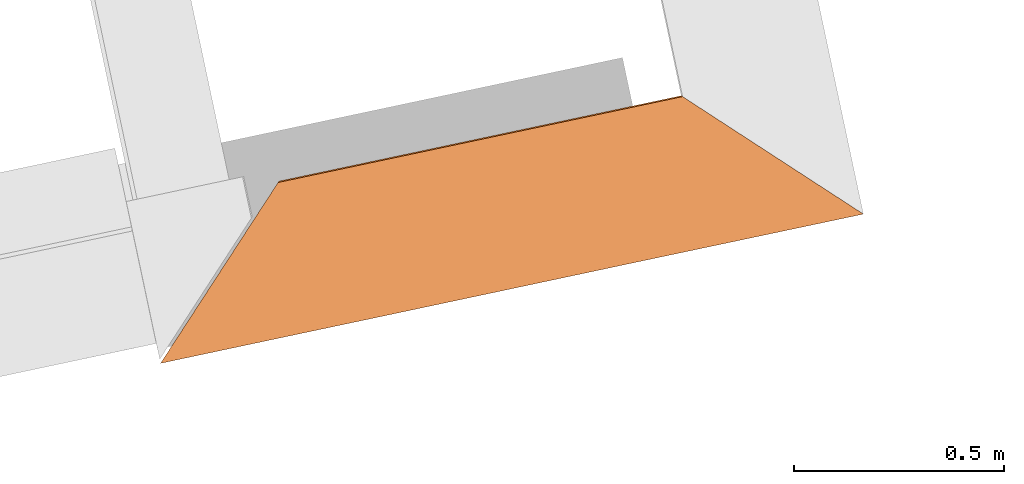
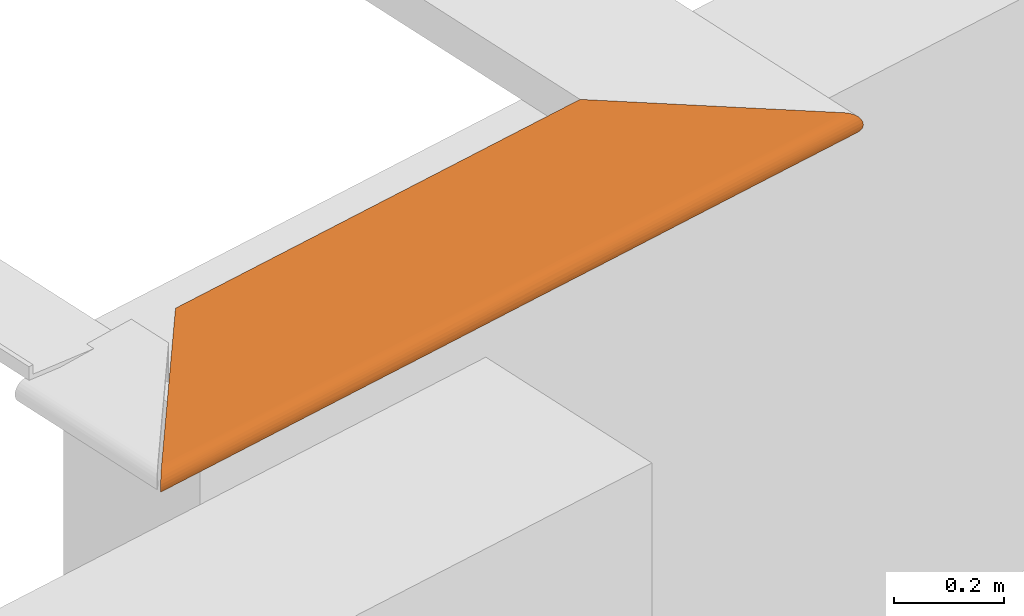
# One storey, part 18 of 22: 1 proxy.
"""IFC2X3 building model written with IfcOpenShell, lengths in centimetres."""

from ifc_helpers import new_model, entity, si_unit, converted_unit, derived_unit, direction, frame, origin, place, context, subcontext, project, spatial, faceted_brep, type_object, element, save


model = new_model("IFC2X3")

# Units and contexts
model_context = context("Model", 3, precision=0.001, world=origin(), true_north=direction((6.12303176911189e-17, 1.0)))
body_context = subcontext(model_context, "Body", "Model", "MODEL_VIEW")
ifc_project = project(units=[si_unit("LENGTHUNIT", "METRE", prefix="CENTI"), si_unit("AREAUNIT", "SQUARE_METRE"), si_unit("VOLUMEUNIT", "CUBIC_METRE"), converted_unit("PLANEANGLEUNIT", "DEGREE", entity("IfcRatioMeasure", 0.0174532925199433), si_unit("PLANEANGLEUNIT", "RADIAN"), dimensions=[0, 0, 0, 0, 0, 0, 0]), si_unit("MASSUNIT", "GRAM", prefix="KILO"), derived_unit("MASSDENSITYUNIT", [(si_unit("MASSUNIT", "GRAM", prefix="KILO"), 1), (si_unit("LENGTHUNIT", "METRE"), -3)]), derived_unit("IONCONCENTRATIONUNIT", [(si_unit("MASSUNIT", "GRAM", prefix="KILO"), 1), (si_unit("LENGTHUNIT", "METRE"), -3)]), derived_unit("MOMENTOFINERTIAUNIT", [(si_unit("LENGTHUNIT", "METRE"), 4)]), si_unit("TIMEUNIT", "SECOND"), si_unit("FREQUENCYUNIT", "HERTZ"), si_unit("THERMODYNAMICTEMPERATUREUNIT", "DEGREE_CELSIUS"), derived_unit("THERMALTRANSMITTANCEUNIT", [(si_unit("MASSUNIT", "GRAM", prefix="KILO"), 1), (si_unit("THERMODYNAMICTEMPERATUREUNIT", "KELVIN"), -1), (si_unit("TIMEUNIT", "SECOND"), -3)]), derived_unit("THERMALCONDUCTANCEUNIT", [(si_unit("MASSUNIT", "GRAM", prefix="KILO"), 1), (si_unit("THERMODYNAMICTEMPERATUREUNIT", "KELVIN"), -1), (si_unit("TIMEUNIT", "SECOND"), -3), (si_unit("LENGTHUNIT", "METRE"), 1)]), derived_unit("VOLUMETRICFLOWRATEUNIT", [(si_unit("LENGTHUNIT", "METRE"), 3), (si_unit("TIMEUNIT", "SECOND"), -1)]), derived_unit("MASSFLOWRATEUNIT", [(si_unit("MASSUNIT", "GRAM", prefix="KILO"), 1), (si_unit("TIMEUNIT", "SECOND"), -1)]), derived_unit("ROTATIONALFREQUENCYUNIT", [(si_unit("TIMEUNIT", "SECOND"), -1)]), si_unit("ELECTRICCURRENTUNIT", "AMPERE"), si_unit("ELECTRICVOLTAGEUNIT", "VOLT"), si_unit("POWERUNIT", "WATT"), si_unit("FORCEUNIT", "NEWTON", prefix="KILO"), si_unit("ILLUMINANCEUNIT", "LUX"), si_unit("LUMINOUSFLUXUNIT", "LUMEN"), si_unit("LUMINOUSINTENSITYUNIT", "CANDELA"), derived_unit("USERDEFINED", [(si_unit("MASSUNIT", "GRAM", prefix="KILO"), -1), (si_unit("LENGTHUNIT", "METRE"), -2), (si_unit("TIMEUNIT", "SECOND"), 3), (si_unit("LUMINOUSFLUXUNIT", "LUMEN"), 1)]), derived_unit("USERDEFINED", [(si_unit("MASSUNIT", "GRAM", prefix="KILO"), 1), (si_unit("TIMEUNIT", "SECOND"), -3), (si_unit("LENGTHUNIT", "METRE"), 3), (si_unit("ELECTRICCURRENTUNIT", "AMPERE"), -2)]), derived_unit("SOUNDPOWERUNIT", [(si_unit("MASSUNIT", "GRAM", prefix="KILO"), 1), (si_unit("TIMEUNIT", "SECOND"), -3), (si_unit("LENGTHUNIT", "METRE"), 2)]), derived_unit("SOUNDPRESSUREUNIT", [(si_unit("MASSUNIT", "GRAM", prefix="KILO"), 1), (si_unit("LENGTHUNIT", "METRE"), -1), (si_unit("TIMEUNIT", "SECOND"), -2)]), derived_unit("LINEARVELOCITYUNIT", [(si_unit("LENGTHUNIT", "METRE"), 1), (si_unit("TIMEUNIT", "SECOND"), -1)]), si_unit("PRESSUREUNIT", "PASCAL"), derived_unit("USERDEFINED", [(si_unit("MASSUNIT", "GRAM", prefix="KILO"), 1), (si_unit("LENGTHUNIT", "METRE"), -2), (si_unit("TIMEUNIT", "SECOND"), -2)]), derived_unit("LINEARFORCEUNIT", [(si_unit("MASSUNIT", "GRAM", prefix="KILO"), 1), (si_unit("TIMEUNIT", "SECOND"), -2)]), derived_unit("PLANARFORCEUNIT", [(si_unit("MASSUNIT", "GRAM", prefix="KILO"), 1), (si_unit("LENGTHUNIT", "METRE"), -1), (si_unit("TIMEUNIT", "SECOND"), -2)]), derived_unit("SPECIFICHEATCAPACITYUNIT", [(si_unit("THERMODYNAMICTEMPERATUREUNIT", "KELVIN"), -1), (si_unit("LENGTHUNIT", "METRE"), 2), (si_unit("TIMEUNIT", "SECOND"), -2)]), derived_unit("HEATINGVALUEUNIT", [(si_unit("LENGTHUNIT", "METRE"), 2), (si_unit("TIMEUNIT", "SECOND"), -2)]), derived_unit("VAPORPERMEABILITYUNIT", [(si_unit("LENGTHUNIT", "METRE"), -1), (si_unit("TIMEUNIT", "SECOND"), 1)]), derived_unit("DYNAMICVISCOSITYUNIT", [(si_unit("MASSUNIT", "GRAM", prefix="KILO"), 1), (si_unit("TIMEUNIT", "SECOND"), -1), (si_unit("LENGTHUNIT", "METRE"), -1)]), derived_unit("THERMALEXPANSIONCOEFFICIENTUNIT", [(si_unit("THERMODYNAMICTEMPERATUREUNIT", "KELVIN"), -1)]), derived_unit("MODULUSOFELASTICITYUNIT", [(si_unit("MASSUNIT", "GRAM", prefix="KILO"), 1), (si_unit("LENGTHUNIT", "METRE"), -1), (si_unit("TIMEUNIT", "SECOND"), -2)]), derived_unit("ISOTHERMALMOISTURECAPACITYUNIT", [(si_unit("LENGTHUNIT", "METRE"), 3), (si_unit("MASSUNIT", "GRAM", prefix="KILO"), -1)]), derived_unit("MOISTUREDIFFUSIVITYUNIT", [(si_unit("TIMEUNIT", "SECOND"), -1), (si_unit("LENGTHUNIT", "METRE"), 2)])], contexts=[model_context])

# Site, building, storey
site_placement = place(None, frame((14083.8920177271, -6853.25409548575, 6900.0), z_axis=(0.0, 0.0, 1.0), x_axis=(0.978188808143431, 0.207717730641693, 0.0)))
site = spatial("IfcSite", under=ifc_project, at=site_placement, Name="Surface", CompositionType="ELEMENT")
building_placement = place(site_placement, origin())
building = spatial("IfcBuilding", under=site, at=building_placement, CompositionType="ELEMENT")
storey_placement = place(building_placement, frame((0.0, 0.0, -17.0)))
storey = spatial("IfcBuildingStorey", under=building, at=storey_placement, Name="Rez de chaussée (SD)", CompositionType="ELEMENT", Elevation=-16.9999999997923)

# Proxy
building_element_proxy_type = type_object("IfcBuildingElementProxyType", Name="5034405", PredefinedType="NOTDEFINED")
proxy_placement = place(storey_placement, frame((-6412.95377363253, 14553.9918981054, 335.65533842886)))
element("IfcBuildingElementProxy", 1, at=proxy_placement, inside=storey, type_object=building_element_proxy_type, Name="5034405", context=body_context, shape_type="Brep", body=[
    faceted_brep([(171.330473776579, 0.450635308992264, 5.5186450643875), (171.559029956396, 0.222079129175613, 4.90734379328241), (171.62158186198, 0.15952722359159, 4.25771741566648), (171.51386668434, 0.267242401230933, 3.61403689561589), (171.243225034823, 0.537884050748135, 3.02016799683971), (170.828100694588, 0.953008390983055, 2.51658190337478), (170.296783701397, 1.48432538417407, 2.1375971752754), (169.685482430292, 2.09562665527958, 1.90904099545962), (169.035856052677, 2.74525303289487, 1.846489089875), (169.070755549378, 2.71035353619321, 2.84587991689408), (169.460531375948, 2.32057770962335, 2.88341106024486), (169.827312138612, 1.95379694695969, 3.02054476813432), (170.146102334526, 1.63500675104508, 3.24793560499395), (170.395176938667, 1.38593214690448, 3.5500872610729), (170.557561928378, 1.22354715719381, 3.90640860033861), (170.622191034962, 1.15891805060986, 4.292616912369), (170.58465989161, 1.19644919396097, 4.68239273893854), (170.447526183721, 1.33358290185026, 5.04917350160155), (170.220135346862, 1.56097373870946, 5.36796369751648), (169.917983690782, 1.86312539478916, 5.61703830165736), (169.561662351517, 2.21944673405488, 5.77942329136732), (169.175454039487, 2.60565504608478, 5.84405239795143), (136.195556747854, 35.5855523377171, 6.99573578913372), (135.951260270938, 35.8298488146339, 0.0), (134.951869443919, 36.8292396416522, 0.0348994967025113), (135.186416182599, 36.5946929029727, 6.75143931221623), (135.231065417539, 36.550043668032, 8.03002611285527), (169.210353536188, 2.57075554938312, 6.84344322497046), (169.85403405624, 1.92707502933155, 6.73572804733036), (170.447902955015, 1.33320613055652, 6.46508639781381), (170.951489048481, 0.829620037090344, 6.049962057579), (1.19644919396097, 1.19644919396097, 4.68239273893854), (1.15891805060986, 1.15891805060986, 4.292616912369), (1.22354715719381, 1.22354715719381, 3.90640860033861), (1.38593214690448, 1.38593214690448, 3.5500872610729), (1.63500675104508, 1.63500675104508, 3.24793560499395), (1.95379694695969, 1.95379694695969, 3.02054476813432), (2.32057770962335, 2.32057770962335, 2.88341106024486), (2.71035353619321, 2.71035353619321, 2.84587991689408), (2.74525303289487, 2.74525303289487, 1.846489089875), (2.09562665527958, 2.09562665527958, 1.90904099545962), (1.48432538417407, 1.48432538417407, 2.1375971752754), (0.953008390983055, 0.953008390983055, 2.51658190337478), (0.537884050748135, 0.537884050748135, 3.02016799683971), (0.267242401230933, 0.267242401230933, 3.61403689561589), (0.15952722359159, 0.15952722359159, 4.25771741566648), (0.222079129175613, 0.222079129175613, 4.90734379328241), (0.450635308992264, 0.450635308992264, 5.5186450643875), (0.829620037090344, 0.829620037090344, 6.049962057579), (1.33320613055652, 1.33320613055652, 6.46508639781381), (1.92707502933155, 1.92707502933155, 6.73572804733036), (2.57075554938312, 2.57075554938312, 6.84344322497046), (36.550043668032, 36.550043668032, 8.03002611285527), (36.5946929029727, 36.5946929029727, 6.75143931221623), (36.8292396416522, 36.8292396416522, 0.0348994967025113), (35.8298488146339, 35.8298488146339, 0.0), (35.5855523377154, 35.5855523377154, 6.99573578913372), (2.60565504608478, 2.60565504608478, 5.84405239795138), (2.21944673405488, 2.21944673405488, 5.77942329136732), (1.86312539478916, 1.86312539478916, 5.61703830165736), (1.56097373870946, 1.56097373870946, 5.36796369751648), (1.33358290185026, 1.33358290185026, 5.04917350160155), (148.354229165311, 2.60565504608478, 5.84405239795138), (127.533004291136, 2.60565504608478, 5.84405239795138), (106.711779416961, 2.60565504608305, 5.84405239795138), (85.8905545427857, 2.60565504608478, 5.84405239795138), (65.0693296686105, 2.60565504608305, 5.84405239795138), (44.2481047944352, 2.60565504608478, 5.84405239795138), (23.42687992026, 2.60565504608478, 5.84405239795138), (37.4879818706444, 2.57075554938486, 6.84344322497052), (68.4320626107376, 2.57075554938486, 6.84344322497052), (99.37614335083, 2.57075554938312, 6.84344322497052), (134.293369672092, 2.57075554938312, 6.84344322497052), (151.577333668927, 2.7452530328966, 1.84648908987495), (134.118811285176, 2.74525303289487, 1.84648908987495), (103.349076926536, 2.74525303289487, 1.84648908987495), (87.9642097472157, 2.74525303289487, 1.84648908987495), (72.5793425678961, 2.7452530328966, 1.84648908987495), (37.6622978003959, 2.74525303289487, 1.84648908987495), (29.7569316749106, 2.71035353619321, 2.84587991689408), (45.3206186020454, 2.71035353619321, 2.84587991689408), (60.8841680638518, 2.71035353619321, 2.84587991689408), (74.4074571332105, 2.71035353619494, 2.84587991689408), (87.9307462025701, 2.71035353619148, 2.84587991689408), (114.977461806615, 2.71035353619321, 2.84587991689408), (142.02417741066, 2.71035353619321, 2.84587991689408), (85.8905545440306, 0.169053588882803, 4.5797520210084), (54.9538533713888, 0.158881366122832, 4.41118251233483), (77.0713867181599, 0.222821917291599, 3.77938079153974), (24.7735032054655, 1.05949367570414, 6.26714299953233), (29.3715888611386, 0.617010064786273, 5.78869139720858), (24.0497725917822, 0.169384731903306, 4.58323635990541), (30.0599874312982, 0.191811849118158, 3.93521643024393), (147.363262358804, 0.723299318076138, 2.76164159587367), (120.128682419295, 0.591590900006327, 2.93786427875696), (127.99131584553, 1.18963430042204, 2.32162990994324), (99.2697652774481, 0.360861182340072, 3.35849084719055), (100.949233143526, 0.192129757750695, 3.93330757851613), (21.3093880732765, 0.314808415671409, 5.21642073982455), (65.2587738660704, 1.83267064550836, 1.98513049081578), (84.4589238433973, 1.26893781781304, 2.26638627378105), (49.9584846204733, 1.18723521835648, 2.32337313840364), (149.014277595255, 1.61094697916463, 6.61513597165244), (141.804057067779, 1.05767140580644, 6.26562611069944), (18.8515097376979, 1.6128577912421, 6.61601630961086), (148.747018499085, 2.14022621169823, 6.79075966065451), (23.2252352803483, 2.13421092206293, 6.7894784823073), (142.657401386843, 0.380193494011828, 3.31463709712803), (101.468237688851, 1.93057431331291, 6.73679508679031), (98.83259890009, 1.29981256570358, 6.44385044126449), (123.962364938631, 1.59873838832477, 6.60946516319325), (23.7334331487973, 1.19744873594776, 2.31598181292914), (127.503111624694, 2.08253675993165, 6.77783218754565), (150.59577804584, 0.191953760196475, 3.93436321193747), (147.41755308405, 0.618002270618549, 5.79009305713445), (22.9743232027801, 0.380814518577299, 3.31326526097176), (140.524393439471, 0.314092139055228, 5.21449236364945), (74.0318237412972, 1.65823064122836, 6.63635277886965), (73.2296768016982, 1.04258030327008, 6.25295078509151), (95.5151823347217, 0.353188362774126, 5.31337905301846), (116.682711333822, 0.188271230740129, 4.73280453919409), (30.5893796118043, 0.721832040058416, 2.76343619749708), (67.1327750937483, 2.29075648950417, 1.87208745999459), (98.8520450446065, 1.90061759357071, 1.96245374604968), (118.733944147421, 2.29408876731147, 1.87159487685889), (142.848072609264, 2.27090148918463, 1.87511769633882), (31.6593010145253, 1.76703024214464, 2.00912257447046), (142.400949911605, 1.76820819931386, 2.00867359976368), (118.009564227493, 0.332173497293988, 5.26176009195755), (44.4840972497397, 2.0847416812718, 6.77835268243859), (147.504024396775, 0.169383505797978, 4.58322355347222), (125.682706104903, 0.191556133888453, 3.93675850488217), (151.400837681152, 1.19875733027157, 2.31504046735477), (66.7562428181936, 0.812341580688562, 2.65868944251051), (92.6279719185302, 0.710344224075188, 2.77760523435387), (74.5416340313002, 0.454641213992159, 3.16378405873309), (48.8283970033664, 0.885332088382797, 6.10781421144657), (70.4663947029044, 0.55405218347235, 5.69529409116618), (46.2233730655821, 0.313017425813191, 5.21158983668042), (24.0454680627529, 2.28533304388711, 1.8728989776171), (53.0608314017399, 0.207500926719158, 3.84995781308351), (47.8499295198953, 2.21979819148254, 1.88367068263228), (50.1255349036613, 0.627265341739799, 2.88685116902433), (117.752445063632, 1.00370057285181, 6.2193405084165), (119.587301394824, 0.612500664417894, 5.78229524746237), (96.287451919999, 0.808973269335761, 6.02754877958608), (55.2448434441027, 1.26881622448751, 6.42346477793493), (49.248321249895, 0.378166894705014, 3.31912920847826), (120.286671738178, 1.77536064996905, 2.00596205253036), (110.016181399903, 0.941563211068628, 2.52732207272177), (106.851833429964, 1.36926888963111, 2.20273342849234), (71.352320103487, 0.28835704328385, 5.14169190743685), (40.7013193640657, 1.60220382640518, 6.61108296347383), (121.107202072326, 0.340453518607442, 3.40743833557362), (49.7810528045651, 0.56849550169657, 5.71753783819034), (81.2989593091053, 2.1393594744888, 6.7905760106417), (63.1525153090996, 2.01328851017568, 6.76040432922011), (98.0161935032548, 1.5330945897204, 5.33722527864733), (118.4109384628, 1.69303190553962, 5.49336865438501), (119.390019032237, 1.41761345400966, 5.18842959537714), (19.9735309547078, 2.41737960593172, 2.86439202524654), (129.684022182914, 1.25122971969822, 4.86552864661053), (146.004474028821, 1.43393101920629, 5.21194056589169), (144.983932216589, 2.12503550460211, 2.94284481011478), (150.536709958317, 1.49774365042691, 3.39428469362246), (128.419686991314, 1.77721671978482, 3.13079431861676), (127.289533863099, 1.46299923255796, 3.43834445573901), (25.929217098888, 1.43391287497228, 5.21191494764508), (33.8374923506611, 2.33866846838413, 5.81058023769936), (137.943616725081, 2.33866846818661, 5.81058023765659), (151.827292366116, 1.1783951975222, 4.09847694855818), (13.8667052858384, 1.29229801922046, 3.72460627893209), (30.1855948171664, 1.29130814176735, 3.72679010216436), (21.5123964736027, 1.49770537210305, 3.39433141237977), (158.422341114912, 1.29232888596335, 3.7245383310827), (28.8684546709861, 2.12439302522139, 2.94308919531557), (34.3161112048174, 1.87919620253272, 3.06299191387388), (48.3409916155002, 1.77605448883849, 3.13163827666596), (49.1632078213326, 2.10550920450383, 2.95042351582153), (146.280217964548, 1.16483105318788, 4.48791258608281), (33.9635439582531, 1.64599602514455, 3.23778989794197), (19.8654724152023, 1.7827115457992, 3.12682716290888), (58.7348961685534, 2.15024816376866, 5.7564135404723), (151.751497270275, 1.2521823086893, 4.86809573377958), (46.7440570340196, 1.30054722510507, 3.70675748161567), (41.3778364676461, 1.45207678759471, 3.4529241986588), (64.1828949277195, 1.250270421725, 4.86292885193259), (53.9490170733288, 1.41422653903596, 5.18342719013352), (71.2972516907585, 1.35923929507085, 5.09543899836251), (39.5971331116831, 1.37078082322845, 5.11506728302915), (42.4752567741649, 1.25121343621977, 4.86548463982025), (20.0643616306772, 1.2521808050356, 4.8680916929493), (36.3731678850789, 1.16296556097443, 4.22306785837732), (19.9885719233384, 1.17839486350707, 4.09847895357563), (25.6534919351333, 1.16483055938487, 4.48790742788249), (94.1452288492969, 2.35710439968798, 5.81447602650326), (81.2979092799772, 2.19435598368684, 5.7715110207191), (152.242643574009, 2.42804626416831, 2.86269785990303), (133.513914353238, 2.39551474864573, 2.86811164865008), (134.943459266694, 1.60301791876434, 5.41126993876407), (151.281535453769, 1.69992925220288, 5.49912915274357), (20.5342963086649, 1.69992194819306, 5.49912308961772), (62.6211572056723, 1.88961196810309, 5.63321040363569), (155.613811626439, 1.95626280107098, 5.67069572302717), (153.089186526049, 2.22055649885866, 5.77976211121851), (96.0360763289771, 2.47015440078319, 2.85677516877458), (96.0065530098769, 2.192384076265, 2.91906370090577), (117.835285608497, 2.20224777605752, 2.91588043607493), (14.7194207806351, 2.03610270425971, 5.70997107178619), (17.5443327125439, 2.32158790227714, 5.80675410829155), (30.977700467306, 2.0274873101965, 5.70601293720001), (70.1054881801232, 1.17533361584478, 4.11761693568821), (71.8205793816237, 1.16150724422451, 4.44741901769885), (84.6218299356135, 1.1620552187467, 4.23480095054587), (52.7987822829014, 1.17808079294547, 4.1003717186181), (61.8129999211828, 1.24558236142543, 3.83992725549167), (151.93951269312, 1.78271713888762, 3.12682314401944), (53.2200748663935, 1.17434289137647, 4.56575757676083), (118.118423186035, 1.17018014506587, 4.53569976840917), (98.1528997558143, 1.15864360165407, 4.38875568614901), (107.781531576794, 1.25606709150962, 4.87841914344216), (77.8249601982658, 1.3701709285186, 3.57588538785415), (94.3416823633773, 1.32261186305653, 3.66179190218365), (91.1406671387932, 1.48930620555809, 3.40467642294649), (47.0980796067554, 1.93805922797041, 5.66089894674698), (124.683029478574, 1.93805922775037, 5.66089894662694), (113.046212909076, 2.1502481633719, 5.75641354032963), (122.937704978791, 1.28169310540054, 3.74850365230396), (142.491152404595, 1.29136237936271, 3.72667020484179), (38.1100843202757, 2.40793226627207, 2.86595838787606), (36.8558371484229, 1.60377793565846, 5.41202135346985), (132.064394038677, 1.16445215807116, 4.4838978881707), (136.452348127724, 1.16247061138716, 4.2292984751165), (60.5577115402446, 1.38328135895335, 3.55434523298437), (78.8753363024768, 1.75767975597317, 3.14520962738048), (63.5292947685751, 1.73699112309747, 3.16101736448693), (70.3586411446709, 1.54636345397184, 3.33786405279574), (121.034308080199, 1.17810036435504, 4.10025333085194), (113.215154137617, 1.61791534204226, 3.26412621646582), (108.778348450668, 1.39982563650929, 3.5282737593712), (39.3744105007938, 1.21251137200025, 3.94427897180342), (140.803408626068, 2.02748730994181, 5.70601293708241), (101.666245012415, 1.83515290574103, 3.09080683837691), (74.4075629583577, 2.13532698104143, 2.93897596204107), (55.5251026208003, 2.39919890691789, 2.86746158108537), (104.491050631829, 1.22853141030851, 3.89042541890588), (73.937444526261, 1.52478020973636, 5.32771901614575), (85.8905545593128, 1.81900082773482, 5.58837807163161), (96.7625141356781, 2.07961647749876, 5.72897032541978), (109.159951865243, 1.8896119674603, 5.63321040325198), (54.7725377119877, 1.547308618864, 3.33682176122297), (85.8905545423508, 1.2493531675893, 4.86042906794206), (86.3151201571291, 1.39178770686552, 5.14913999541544), (84.5686925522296, 1.21321520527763, 3.94174847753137), (101.329347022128, 1.36872830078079, 5.11162606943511), (53.3701706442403, 1.69303190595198, 5.49336865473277), (81.1692195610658, 2.41827769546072, 2.86424634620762)], [[[0, 1, 2, 3, 4, 5, 6, 7, 8, 9, 10, 11, 12, 13, 14, 15, 16, 17, 18, 19, 20, 21, 22, 23, 24, 25, 26, 27, 28, 29, 30]], [[31, 32, 33, 34, 35, 36, 37, 38, 39, 40, 41, 42, 43, 44, 45, 46, 47, 48, 49, 50, 51, 52, 53, 54, 55, 56, 57, 58, 59, 60, 61]], [[22, 21, 62, 63, 64, 65, 66, 67, 68, 57, 56]], [[26, 25, 24, 54, 53, 52]], [[26, 52, 51, 69, 70, 71, 72, 27]], [[9, 8, 73, 74, 75, 76, 77, 78, 39, 38, 79, 80, 81, 82, 83, 84, 85]], [[86, 87, 88]], [[89, 48, 90]], [[73, 8, 7]], [[89, 49, 48]], [[91, 45, 92]], [[93, 94, 95]], [[96, 97, 88]], [[98, 47, 46]], [[99, 100, 101]], [[29, 102, 103]], [[50, 49, 104]], [[92, 45, 44]], [[27, 72, 105]], [[51, 50, 106]], [[3, 107, 4]], [[108, 109, 110]], [[42, 41, 111]], [[102, 29, 28]], [[102, 105, 112]], [[3, 113, 107]], [[114, 0, 30]], [[115, 92, 44]], [[0, 116, 1]], [[109, 117, 118]], [[115, 44, 43]], [[119, 86, 120]], [[29, 103, 30]], [[121, 43, 42]], [[122, 123, 99]], [[124, 74, 125]], [[41, 40, 126]], [[121, 42, 111]], [[110, 112, 108]], [[125, 7, 127]], [[3, 2, 113]], [[101, 111, 126]], [[128, 120, 116]], [[30, 103, 114]], [[106, 129, 69]], [[124, 75, 74]], [[130, 120, 131]], [[5, 132, 6]], [[104, 106, 50]], [[133, 134, 135]], [[4, 107, 93]], [[136, 137, 118]], [[91, 87, 138]], [[130, 1, 116]], [[47, 90, 48]], [[47, 98, 90]], [[39, 78, 139]], [[6, 132, 127]], [[127, 7, 6]], [[1, 130, 2]], [[140, 87, 92]], [[45, 91, 46]], [[40, 139, 126]], [[141, 122, 99]], [[101, 133, 142]], [[121, 142, 115]], [[143, 110, 109]], [[102, 112, 110]], [[144, 116, 114]], [[144, 145, 119]], [[146, 89, 136]], [[135, 88, 147]], [[4, 93, 5]], [[148, 123, 124]], [[73, 125, 74]], [[149, 100, 150]], [[126, 99, 101]], [[7, 125, 73]], [[123, 76, 75]], [[148, 124, 125]], [[148, 125, 127]], [[122, 77, 76]], [[139, 141, 126]], [[100, 99, 123]], [[120, 130, 116]], [[113, 130, 131]], [[128, 144, 119]], [[120, 86, 97]], [[143, 144, 103]], [[151, 119, 137]], [[87, 91, 92]], [[98, 91, 138]], [[140, 92, 147]], [[87, 86, 151]], [[134, 96, 135]], [[134, 94, 96]], [[144, 114, 103]], [[116, 0, 114]], [[136, 89, 90]], [[104, 89, 152]], [[94, 93, 107]], [[132, 93, 95]], [[94, 153, 96]], [[94, 134, 149]], [[153, 94, 107]], [[96, 153, 97]], [[121, 115, 43]], [[92, 115, 147]], [[126, 111, 41]], [[121, 111, 101]], [[123, 148, 150]], [[100, 134, 133]], [[136, 154, 137]], [[146, 136, 118]], [[154, 136, 90]], [[151, 137, 138]], [[105, 102, 28]], [[103, 102, 110]], [[91, 98, 46]], [[90, 98, 138]], [[130, 113, 2]], [[107, 113, 131]], [[88, 135, 96]], [[115, 142, 147]], [[135, 147, 142]], [[100, 133, 101]], [[27, 105, 28]], [[105, 72, 112]], [[72, 71, 112]], [[108, 112, 71]], [[117, 155, 156]], [[108, 117, 109]], [[71, 70, 155]], [[145, 109, 118]], [[145, 144, 143]], [[155, 117, 108]], [[146, 117, 152]], [[118, 137, 145]], [[119, 145, 137]], [[110, 143, 103]], [[109, 145, 143]], [[93, 132, 5]], [[127, 132, 95]], [[120, 97, 131]], [[86, 88, 97]], [[127, 95, 148]], [[150, 148, 95]], [[117, 146, 118]], [[89, 146, 152]], [[87, 151, 138]], [[86, 119, 151]], [[89, 104, 49]], [[152, 129, 106]], [[152, 106, 104]], [[51, 106, 69]], [[156, 152, 117]], [[70, 69, 129]], [[149, 150, 95]], [[123, 150, 100]], [[94, 149, 95]], [[100, 149, 134]], [[90, 138, 154]], [[138, 137, 154]], [[39, 139, 40]], [[141, 139, 78]], [[77, 141, 78]], [[126, 141, 99]], [[141, 77, 122]], [[122, 76, 123]], [[123, 75, 124]], [[144, 128, 116]], [[119, 120, 128]], [[147, 88, 140]], [[88, 87, 140]], [[107, 131, 153]], [[97, 153, 131]], [[101, 142, 121]], [[135, 142, 133]], [[71, 155, 108]], [[156, 70, 129]], [[70, 156, 155]], [[152, 156, 129]], [[157, 158, 159]], [[160, 79, 38]], [[161, 159, 162]], [[11, 10, 163]], [[164, 165, 166]], [[60, 167, 61]], [[68, 67, 168]], [[62, 169, 63]], [[170, 15, 14]], [[18, 17, 162]], [[171, 172, 173]], [[13, 164, 174]], [[175, 160, 37]], [[176, 177, 178]], [[13, 174, 14]], [[15, 170, 179]], [[180, 181, 173]], [[182, 168, 67]], [[161, 183, 179]], [[184, 185, 172]], [[186, 187, 188]], [[35, 173, 181]], [[189, 190, 191]], [[192, 193, 194]], [[65, 195, 196]], [[179, 16, 15]], [[197, 10, 9]], [[85, 84, 198]], [[162, 199, 200]], [[167, 60, 201]], [[175, 37, 36]], [[196, 202, 182]], [[20, 203, 204]], [[205, 206, 207]], [[18, 162, 200]], [[32, 194, 193]], [[31, 191, 194]], [[208, 209, 210]], [[175, 176, 178]], [[211, 212, 213]], [[61, 191, 31]], [[214, 215, 184]], [[31, 194, 32]], [[16, 183, 17]], [[60, 59, 201]], [[216, 12, 11]], [[34, 33, 171]], [[21, 204, 62]], [[179, 183, 16]], [[186, 212, 217]], [[218, 219, 220]], [[35, 34, 173]], [[221, 222, 223]], [[182, 224, 168]], [[209, 168, 210]], [[62, 204, 169]], [[225, 226, 169]], [[166, 227, 228]], [[12, 164, 13]], [[12, 216, 164]], [[197, 85, 198]], [[229, 160, 175]], [[193, 33, 32]], [[217, 192, 194]], [[190, 189, 187]], [[201, 210, 230]], [[218, 161, 231]], [[170, 228, 232]], [[200, 19, 18]], [[159, 199, 162]], [[207, 165, 163]], [[163, 10, 197]], [[181, 36, 35]], [[57, 209, 58]], [[184, 233, 185]], [[228, 164, 166]], [[163, 165, 216]], [[173, 172, 185]], [[234, 235, 236]], [[237, 228, 227]], [[238, 239, 166]], [[194, 191, 190]], [[191, 61, 167]], [[33, 193, 171]], [[240, 184, 172]], [[167, 201, 230]], [[210, 201, 208]], [[183, 162, 17]], [[162, 183, 161]], [[179, 170, 232]], [[228, 170, 174]], [[19, 200, 203]], [[199, 225, 241]], [[238, 166, 165]], [[206, 242, 207]], [[206, 243, 234]], [[244, 82, 81, 80]], [[165, 207, 242]], [[222, 245, 239]], [[213, 219, 245]], [[181, 175, 36]], [[177, 176, 180]], [[164, 216, 165]], [[216, 11, 163]], [[223, 242, 234]], [[206, 234, 242]], [[202, 224, 182]], [[182, 66, 196]], [[157, 246, 247]], [[225, 169, 241]], [[195, 248, 196]], [[249, 225, 158]], [[173, 185, 180]], [[236, 250, 233]], [[236, 221, 223]], [[235, 234, 243]], [[68, 168, 209]], [[224, 210, 168]], [[68, 209, 57]], [[208, 58, 209]], [[208, 59, 58]], [[59, 208, 201]], [[63, 169, 226]], [[241, 169, 204]], [[241, 204, 203]], [[21, 20, 204]], [[241, 203, 200]], [[19, 203, 20]], [[237, 227, 245]], [[227, 166, 239]], [[237, 245, 219]], [[223, 222, 239]], [[161, 218, 220]], [[251, 219, 212]], [[227, 239, 245]], [[242, 223, 238]], [[239, 238, 223]], [[242, 238, 165]], [[252, 251, 188]], [[215, 214, 211]], [[222, 253, 245]], [[221, 215, 253]], [[222, 221, 253]], [[233, 221, 236]], [[250, 185, 233]], [[234, 236, 223]], [[185, 250, 180]], [[177, 250, 235]], [[236, 235, 250]], [[178, 177, 235]], [[200, 199, 241]], [[159, 158, 199]], [[157, 249, 158]], [[159, 161, 220]], [[246, 202, 247]], [[254, 252, 157]], [[255, 246, 187]], [[246, 157, 252]], [[157, 159, 254]], [[251, 220, 219]], [[218, 237, 219]], [[231, 232, 237]], [[230, 255, 187]], [[186, 190, 187]], [[190, 186, 217]], [[186, 251, 212]], [[190, 217, 194]], [[217, 212, 214]], [[172, 193, 240]], [[214, 192, 217]], [[189, 167, 230]], [[224, 255, 230]], [[233, 184, 215]], [[192, 214, 240]], [[233, 215, 221]], [[253, 215, 211]], [[253, 211, 213]], [[211, 214, 212]], [[184, 240, 214]], [[192, 240, 193]], [[253, 213, 245]], [[219, 213, 212]], [[175, 181, 176]], [[250, 177, 180]], [[180, 176, 181]], [[229, 175, 178]], [[256, 244, 243]], [[205, 256, 206]], [[34, 171, 173]], [[172, 171, 193]], [[14, 174, 170]], [[228, 174, 164]], [[37, 160, 38]], [[79, 160, 229]], [[178, 244, 229]], [[229, 244, 80]], [[243, 178, 235]], [[82, 256, 83]], [[244, 178, 243]], [[244, 256, 82]], [[83, 256, 205]], [[256, 243, 206]], [[205, 84, 83]], [[84, 205, 207]], [[80, 79, 229]], [[163, 197, 198]], [[85, 197, 9]], [[198, 207, 163]], [[207, 198, 84]], [[179, 232, 231]], [[237, 232, 228]], [[179, 231, 161]], [[218, 231, 237]], [[210, 224, 230]], [[255, 224, 202]], [[255, 202, 246]], [[247, 202, 196]], [[64, 63, 226]], [[182, 67, 66]], [[65, 196, 66]], [[248, 249, 247]], [[226, 225, 249]], [[158, 225, 199]], [[226, 249, 248]], [[247, 249, 157]], [[64, 226, 195]], [[196, 248, 247]], [[248, 195, 226]], [[195, 65, 64]], [[246, 252, 188]], [[220, 251, 254]], [[246, 188, 187]], [[186, 188, 251]], [[252, 254, 251]], [[220, 254, 159]], [[187, 189, 230]], [[167, 189, 191]], [[23, 22, 56, 55]], [[24, 23, 55, 54]]]),
])

save(model, "model.ifc")
